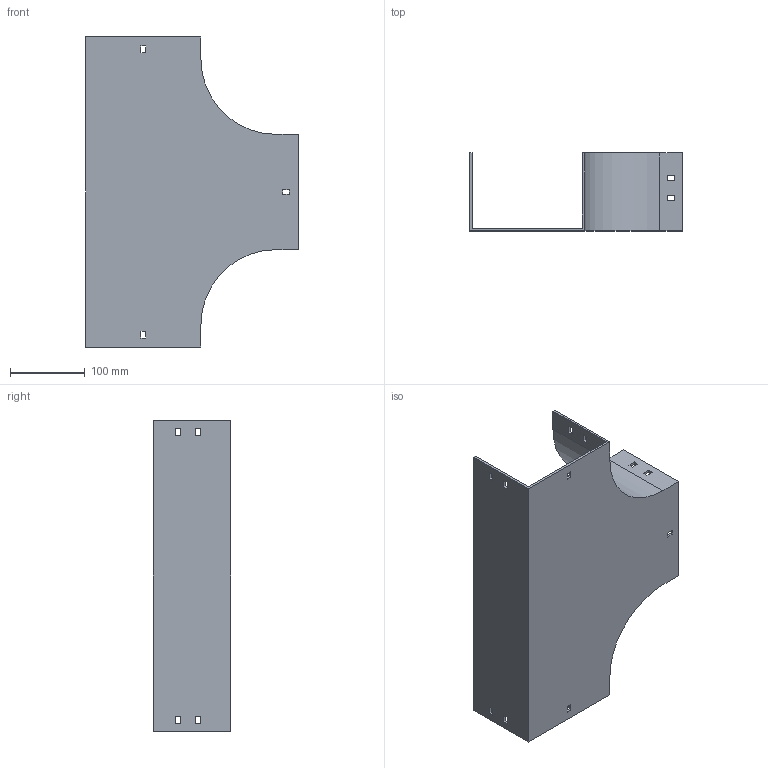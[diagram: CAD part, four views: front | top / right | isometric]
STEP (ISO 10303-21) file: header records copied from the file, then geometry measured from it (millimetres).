
FILE_DESCRIPTION (( 'STEP AP214' ), '1' );
FILE_NAME ('15F1D150.step', '2025-02-21T13:03:38', ( '' ), ( '' ), 'SwSTEP 2.0', 'SolidWorks 2023', '' );
FILE_SCHEMA (( 'AUTOMOTIVE_DESIGN' ));
Length unit declared in the file: millimetre
Products named in the file (1): 15F1D150
Bounding box: 284 x 104 x 414 mm (x, y, z)
Volume: 604957.7 mm3; surface area: 354139.7 mm2
Topology: 1 solids, 1 shells, 82 faces, 240 edges, 160 vertices
Faces by surface type: plane 78, cylinder 4
Entity records: 2755 total; most frequent: CARTESIAN_POINT 483, ORIENTED_EDGE 480, DIRECTION 414, EDGE_CURVE 240, VECTOR 232, LINE 232, VERTEX_POINT 160, EDGE_LOOP 112
